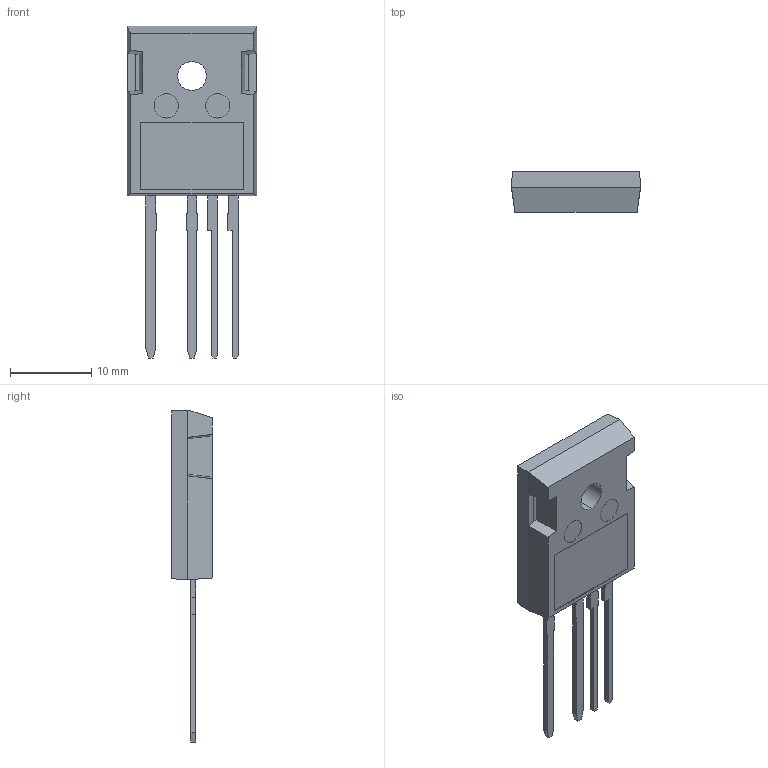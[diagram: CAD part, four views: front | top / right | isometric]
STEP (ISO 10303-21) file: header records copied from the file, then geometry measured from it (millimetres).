
FILE_DESCRIPTION (( 'STEP AP214' ), '1' );
FILE_NAME ('K1_packageZoriented.STEP', '2024-06-05T11:41:10', ( '' ), ( '' ), 'SwSTEP 2.0', 'SolidWorks 2024', '' );
FILE_SCHEMA (( 'AUTOMOTIVE_DESIGN' ));
Length unit declared in the file: millimetre
Products named in the file (5): K1_package; TO-247-4L-LowProfile.STEP; TO-247-4L-LowProfile_EMC.STEP; K1_package.STEP; K1_packageZoriented
Assembly tree (4 placements, depth 4):
  K1_packageZoriented
    K1_package
      K1_package.STEP
        TO-247-4L-LowProfile.STEP
        TO-247-4L-LowProfile_EMC.STEP
Bounding box: 15.94 x 5.02 x 40.98 mm (x, y, z)
Volume: 1563.8 mm3; surface area: 2218.7 mm2
Topology: 5 solids, 5 shells, 229 faces, 596 edges, 382 vertices
Faces by surface type: plane 203, cylinder 20, cone 4, torus 2
Entity records: 7033 total; most frequent: CARTESIAN_POINT 1216, ORIENTED_EDGE 1192, DIRECTION 1116, EDGE_CURVE 596, LINE 552, VECTOR 552, VERTEX_POINT 382, AXIS2_PLACEMENT_3D 282
